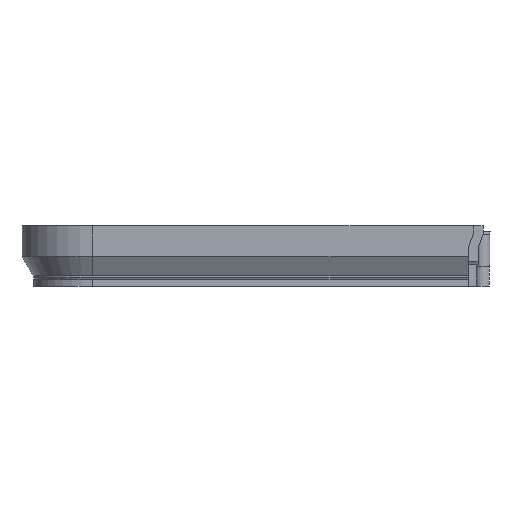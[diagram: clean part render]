
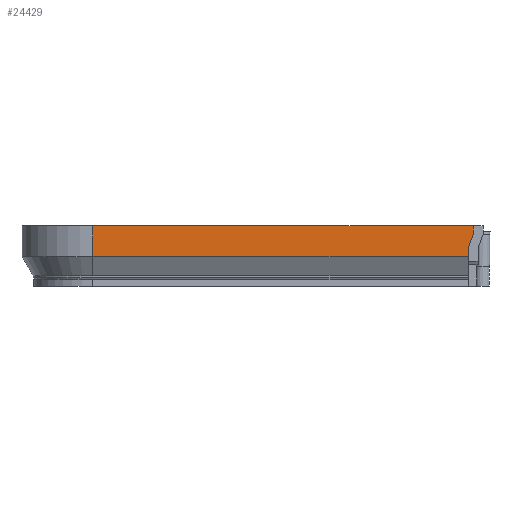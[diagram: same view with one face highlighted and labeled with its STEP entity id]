
A CAD part, left-side view. The second image highlights one B-rep face of the part: STEP entity #24429.
In plain terms, the highlighted planar face has unit normal (-1, 0, 0).
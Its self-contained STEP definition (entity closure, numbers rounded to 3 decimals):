
#2183 = PLANE('',#2184);
#2184 = AXIS2_PLACEMENT_3D('',#2185,#2186,#2187);
#2185 = CARTESIAN_POINT('',(0.,-3.198,24.5));
#2186 = DIRECTION('',(0.,0.,1.));
#2187 = DIRECTION('',(1.,0.,-0.));
#10111 = VERTEX_POINT('',#10112);
#10112 = CARTESIAN_POINT('',(-196.5,152.,24.5));
#10127 = CYLINDRICAL_SURFACE('',#10128,28.5);
#10128 = AXIS2_PLACEMENT_3D('',#10129,#10130,#10131);
#10129 = CARTESIAN_POINT('',(-168.,152.,12.));
#10130 = DIRECTION('',(-0.,-0.,-1.));
#10131 = DIRECTION('',(1.,0.,-0.));
#10139 = EDGE_CURVE('',#10111,#10140,#10142,.T.);
#10140 = VERTEX_POINT('',#10141);
#10141 = CARTESIAN_POINT('',(-196.5,-1.9,24.5));
#10142 = SURFACE_CURVE('',#10143,(#10147,#10154),.PCURVE_S1.);
#10143 = LINE('',#10144,#10145);
#10144 = CARTESIAN_POINT('',(-196.5,152.,24.5));
#10145 = VECTOR('',#10146,1.);
#10146 = DIRECTION('',(0.,-1.,0.));
#10147 = PCURVE('',#2183,#10148);
#10148 = DEFINITIONAL_REPRESENTATION('',(#10149),#10153);
#10149 = LINE('',#10150,#10151);
#10150 = CARTESIAN_POINT('',(-196.5,155.198));
#10151 = VECTOR('',#10152,1.);
#10152 = DIRECTION('',(0.,-1.));
#10153 = ( GEOMETRIC_REPRESENTATION_CONTEXT(2) 
PARAMETRIC_REPRESENTATION_CONTEXT() REPRESENTATION_CONTEXT('2D SPACE',''
  ) );
#10154 = PCURVE('',#10155,#10160);
#10155 = PLANE('',#10156);
#10156 = AXIS2_PLACEMENT_3D('',#10157,#10158,#10159);
#10157 = CARTESIAN_POINT('',(-196.5,152.,12.));
#10158 = DIRECTION('',(1.,0.,-0.));
#10159 = DIRECTION('',(0.,-1.,0.));
#10160 = DEFINITIONAL_REPRESENTATION('',(#10161),#10165);
#10161 = LINE('',#10162,#10163);
#10162 = CARTESIAN_POINT('',(0.,-12.5));
#10163 = VECTOR('',#10164,1.);
#10164 = DIRECTION('',(1.,0.));
#10165 = ( GEOMETRIC_REPRESENTATION_CONTEXT(2) 
PARAMETRIC_REPRESENTATION_CONTEXT() REPRESENTATION_CONTEXT('2D SPACE',''
  ) );
#10182 = PLANE('',#10183);
#10183 = AXIS2_PLACEMENT_3D('',#10184,#10185,#10186);
#10184 = CARTESIAN_POINT('',(-245.9,-1.9,38.));
#10185 = DIRECTION('',(0.,-1.,0.));
#10186 = DIRECTION('',(1.,0.,0.));
#23549 = B_SPLINE_SURFACE_WITH_KNOTS('',1,1,(
    (#23550,#23551)
    ,(#23552,#23553
    )),.UNSPECIFIED.,.F.,.F.,.F.,(2,2),(2,2),(0.,332.5),(0.,1.),
  .PIECEWISE_BEZIER_KNOTS.);
#23550 = CARTESIAN_POINT('',(-192.,152.,4.2));
#23551 = CARTESIAN_POINT('',(-196.5,152.,12.));
#23552 = CARTESIAN_POINT('',(-192.,-176.,4.2));
#23553 = CARTESIAN_POINT('',(-196.5,-180.5,12.));
#23847 = EDGE_CURVE('',#10111,#23848,#23850,.T.);
#23848 = VERTEX_POINT('',#23849);
#23849 = CARTESIAN_POINT('',(-196.5,152.,12.));
#23850 = SURFACE_CURVE('',#23851,(#23855,#23862),.PCURVE_S1.);
#23851 = LINE('',#23852,#23853);
#23852 = CARTESIAN_POINT('',(-196.5,152.,24.5));
#23853 = VECTOR('',#23854,1.);
#23854 = DIRECTION('',(0.,0.,-1.));
#23855 = PCURVE('',#10127,#23856);
#23856 = DEFINITIONAL_REPRESENTATION('',(#23857),#23861);
#23857 = LINE('',#23858,#23859);
#23858 = CARTESIAN_POINT('',(-3.142,-12.5));
#23859 = VECTOR('',#23860,1.);
#23860 = DIRECTION('',(0.,1.));
#23861 = ( GEOMETRIC_REPRESENTATION_CONTEXT(2) 
PARAMETRIC_REPRESENTATION_CONTEXT() REPRESENTATION_CONTEXT('2D SPACE',''
  ) );
#23862 = PCURVE('',#10155,#23863);
#23863 = DEFINITIONAL_REPRESENTATION('',(#23864),#23868);
#23864 = LINE('',#23865,#23866);
#23865 = CARTESIAN_POINT('',(0.,-12.5));
#23866 = VECTOR('',#23867,1.);
#23867 = DIRECTION('',(0.,1.));
#23868 = ( GEOMETRIC_REPRESENTATION_CONTEXT(2) 
PARAMETRIC_REPRESENTATION_CONTEXT() REPRESENTATION_CONTEXT('2D SPACE',''
  ) );
#24265 = PLANE('',#24266);
#24266 = AXIS2_PLACEMENT_3D('',#24267,#24268,#24269);
#24267 = CARTESIAN_POINT('',(-245.9,0.1,8.));
#24268 = DIRECTION('',(0.,-1.,0.));
#24269 = DIRECTION('',(1.,0.,0.));
#24372 = PLANE('',#24373);
#24373 = AXIS2_PLACEMENT_3D('',#24374,#24375,#24376);
#24374 = CARTESIAN_POINT('',(-245.9,-1.9,21.));
#24375 = DIRECTION('',(0.,-0.94,-0.342));
#24376 = DIRECTION('',(1.,0.,0.));
#24386 = EDGE_CURVE('',#10140,#24387,#24389,.T.);
#24387 = VERTEX_POINT('',#24388);
#24388 = CARTESIAN_POINT('',(-196.5,-1.9,21.));
#24389 = SURFACE_CURVE('',#24390,(#24394,#24400),.PCURVE_S1.);
#24390 = LINE('',#24391,#24392);
#24391 = CARTESIAN_POINT('',(-196.5,-1.9,25.));
#24392 = VECTOR('',#24393,1.);
#24393 = DIRECTION('',(0.,-0.,-1.));
#24394 = PCURVE('',#10182,#24395);
#24395 = DEFINITIONAL_REPRESENTATION('',(#24396),#24399);
#24396 = B_SPLINE_CURVE_WITH_KNOTS('',1,(#24397,#24398),.UNSPECIFIED.,
  .F.,.F.,(2,2),(0.5,4.),.PIECEWISE_BEZIER_KNOTS.);
#24397 = CARTESIAN_POINT('',(49.4,-13.5));
#24398 = CARTESIAN_POINT('',(49.4,-17.));
#24399 = ( GEOMETRIC_REPRESENTATION_CONTEXT(2) 
PARAMETRIC_REPRESENTATION_CONTEXT() REPRESENTATION_CONTEXT('2D SPACE',''
  ) );
#24400 = PCURVE('',#10155,#24401);
#24401 = DEFINITIONAL_REPRESENTATION('',(#24402),#24405);
#24402 = B_SPLINE_CURVE_WITH_KNOTS('',1,(#24403,#24404),.UNSPECIFIED.,
  .F.,.F.,(2,2),(0.5,4.),.PIECEWISE_BEZIER_KNOTS.);
#24403 = CARTESIAN_POINT('',(153.9,-12.5));
#24404 = CARTESIAN_POINT('',(153.9,-9.));
#24405 = ( GEOMETRIC_REPRESENTATION_CONTEXT(2) 
PARAMETRIC_REPRESENTATION_CONTEXT() REPRESENTATION_CONTEXT('2D SPACE',''
  ) );
#24429 = ADVANCED_FACE('',(#24430),#10155,.F.);
#24430 = FACE_BOUND('',#24431,.F.);
#24431 = EDGE_LOOP('',(#24432,#24433,#24434,#24435,#24456,#24477));
#24432 = ORIENTED_EDGE('',*,*,#23847,.F.);
#24433 = ORIENTED_EDGE('',*,*,#10139,.T.);
#24434 = ORIENTED_EDGE('',*,*,#24386,.T.);
#24435 = ORIENTED_EDGE('',*,*,#24436,.T.);
#24436 = EDGE_CURVE('',#24387,#24437,#24439,.T.);
#24437 = VERTEX_POINT('',#24438);
#24438 = CARTESIAN_POINT('',(-196.5,0.1,15.5));
#24439 = SURFACE_CURVE('',#24440,(#24444,#24450),.PCURVE_S1.);
#24440 = LINE('',#24441,#24442);
#24441 = CARTESIAN_POINT('',(-196.5,8.532,-7.688));
#24442 = VECTOR('',#24443,1.);
#24443 = DIRECTION('',(-0.,0.342,-0.94));
#24444 = PCURVE('',#10155,#24445);
#24445 = DEFINITIONAL_REPRESENTATION('',(#24446),#24449);
#24446 = B_SPLINE_CURVE_WITH_KNOTS('',1,(#24447,#24448),.UNSPECIFIED.,
  .F.,.F.,(2,2),(-30.526,-24.674),
  .PIECEWISE_BEZIER_KNOTS.);
#24447 = CARTESIAN_POINT('',(153.9,-9.));
#24448 = CARTESIAN_POINT('',(151.9,-3.5));
#24449 = ( GEOMETRIC_REPRESENTATION_CONTEXT(2) 
PARAMETRIC_REPRESENTATION_CONTEXT() REPRESENTATION_CONTEXT('2D SPACE',''
  ) );
#24450 = PCURVE('',#24372,#24451);
#24451 = DEFINITIONAL_REPRESENTATION('',(#24452),#24455);
#24452 = B_SPLINE_CURVE_WITH_KNOTS('',1,(#24453,#24454),.UNSPECIFIED.,
  .F.,.F.,(2,2),(-30.526,-24.674),
  .PIECEWISE_BEZIER_KNOTS.);
#24453 = CARTESIAN_POINT('',(49.4,0.));
#24454 = CARTESIAN_POINT('',(49.4,-5.852));
#24455 = ( GEOMETRIC_REPRESENTATION_CONTEXT(2) 
PARAMETRIC_REPRESENTATION_CONTEXT() REPRESENTATION_CONTEXT('2D SPACE',''
  ) );
#24456 = ORIENTED_EDGE('',*,*,#24457,.T.);
#24457 = EDGE_CURVE('',#24437,#24458,#24460,.T.);
#24458 = VERTEX_POINT('',#24459);
#24459 = CARTESIAN_POINT('',(-196.5,0.1,12.));
#24460 = SURFACE_CURVE('',#24461,(#24465,#24471),.PCURVE_S1.);
#24461 = LINE('',#24462,#24463);
#24462 = CARTESIAN_POINT('',(-196.5,0.1,10.));
#24463 = VECTOR('',#24464,1.);
#24464 = DIRECTION('',(0.,-0.,-1.));
#24465 = PCURVE('',#10155,#24466);
#24466 = DEFINITIONAL_REPRESENTATION('',(#24467),#24470);
#24467 = B_SPLINE_CURVE_WITH_KNOTS('',1,(#24468,#24469),.UNSPECIFIED.,
  .F.,.F.,(2,2),(-5.5,-2.),.PIECEWISE_BEZIER_KNOTS.);
#24468 = CARTESIAN_POINT('',(151.9,-3.5));
#24469 = CARTESIAN_POINT('',(151.9,0.));
#24470 = ( GEOMETRIC_REPRESENTATION_CONTEXT(2) 
PARAMETRIC_REPRESENTATION_CONTEXT() REPRESENTATION_CONTEXT('2D SPACE',''
  ) );
#24471 = PCURVE('',#24265,#24472);
#24472 = DEFINITIONAL_REPRESENTATION('',(#24473),#24476);
#24473 = B_SPLINE_CURVE_WITH_KNOTS('',1,(#24474,#24475),.UNSPECIFIED.,
  .F.,.F.,(2,2),(-5.5,-2.),.PIECEWISE_BEZIER_KNOTS.);
#24474 = CARTESIAN_POINT('',(49.4,7.5));
#24475 = CARTESIAN_POINT('',(49.4,4.));
#24476 = ( GEOMETRIC_REPRESENTATION_CONTEXT(2) 
PARAMETRIC_REPRESENTATION_CONTEXT() REPRESENTATION_CONTEXT('2D SPACE',''
  ) );
#24477 = ORIENTED_EDGE('',*,*,#24478,.F.);
#24478 = EDGE_CURVE('',#23848,#24458,#24479,.T.);
#24479 = SURFACE_CURVE('',#24480,(#24484,#24491),.PCURVE_S1.);
#24480 = LINE('',#24481,#24482);
#24481 = CARTESIAN_POINT('',(-196.5,152.,12.));
#24482 = VECTOR('',#24483,1.);
#24483 = DIRECTION('',(0.,-1.,0.));
#24484 = PCURVE('',#10155,#24485);
#24485 = DEFINITIONAL_REPRESENTATION('',(#24486),#24490);
#24486 = LINE('',#24487,#24488);
#24487 = CARTESIAN_POINT('',(0.,0.));
#24488 = VECTOR('',#24489,1.);
#24489 = DIRECTION('',(1.,0.));
#24490 = ( GEOMETRIC_REPRESENTATION_CONTEXT(2) 
PARAMETRIC_REPRESENTATION_CONTEXT() REPRESENTATION_CONTEXT('2D SPACE',''
  ) );
#24491 = PCURVE('',#23549,#24492);
#24492 = DEFINITIONAL_REPRESENTATION('',(#24493),#24497);
#24493 = LINE('',#24494,#24495);
#24494 = CARTESIAN_POINT('',(0.,1.));
#24495 = VECTOR('',#24496,1.);
#24496 = DIRECTION('',(1.,0.));
#24497 = ( GEOMETRIC_REPRESENTATION_CONTEXT(2) 
PARAMETRIC_REPRESENTATION_CONTEXT() REPRESENTATION_CONTEXT('2D SPACE',''
  ) );
